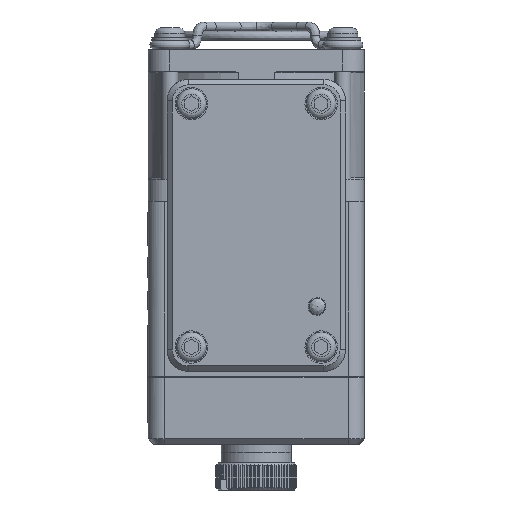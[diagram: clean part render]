
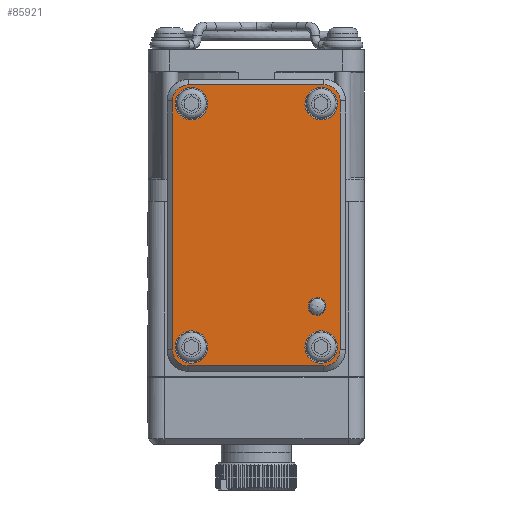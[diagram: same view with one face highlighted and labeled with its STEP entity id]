
A CAD part, front view. The second image highlights one B-rep face of the part: STEP entity #85921.
In plain terms, the highlighted free-form (B-spline) face has degree [1, 1] with [2, 2] control points.
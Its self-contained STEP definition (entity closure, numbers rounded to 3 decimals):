
#85633=CARTESIAN_POINT('',(-15.5,23.,4.));
#85634=VERTEX_POINT('',#85633);
#85640=CARTESIAN_POINT('',(-12.5,26.,4.));
#85641=VERTEX_POINT('',#85640);
#85642=CARTESIAN_POINT('',(-15.5,23.,4.));
#85643=CARTESIAN_POINT('',(-15.5,26.,4.));
#85644=CARTESIAN_POINT('',(-12.5,26.,4.));
#85645=(BOUNDED_CURVE()B_SPLINE_CURVE(2,(#85642,#85643,#85644),.CIRCULAR_ARC.,.F.,.U.)B_SPLINE_CURVE_WITH_KNOTS((3,3),(0.,1.),.UNSPECIFIED.)CURVE()GEOMETRIC_REPRESENTATION_ITEM()RATIONAL_B_SPLINE_CURVE((1.,0.707,1.))REPRESENTATION_ITEM(''));
#85646=EDGE_CURVE('',#85634,#85641,#85645,.T.);
#85664=CARTESIAN_POINT('',(-15.5,-23.,4.));
#85665=VERTEX_POINT('',#85664);
#85671=CARTESIAN_POINT('',(-15.5,-23.,4.));
#85672=CARTESIAN_POINT('',(-15.5,23.,4.));
#85673=B_SPLINE_CURVE_WITH_KNOTS('',1,(#85671,#85672),.POLYLINE_FORM.,.F.,.U.,(2,2),(0.,1.),.UNSPECIFIED.);
#85674=EDGE_CURVE('',#85665,#85634,#85673,.T.);
#85692=CARTESIAN_POINT('',(-12.5,-26.,4.));
#85693=VERTEX_POINT('',#85692);
#85699=CARTESIAN_POINT('',(-12.5,-26.,4.));
#85700=CARTESIAN_POINT('',(-13.743,-26.,4.));
#85701=CARTESIAN_POINT('',(-14.621,-25.121,4.));
#85702=CARTESIAN_POINT('',(-15.5,-24.243,4.));
#85703=CARTESIAN_POINT('',(-15.5,-23.,4.));
#85704=(BOUNDED_CURVE()B_SPLINE_CURVE(2,(#85699,#85700,#85701,#85702,#85703),.CIRCULAR_ARC.,.F.,.U.)B_SPLINE_CURVE_WITH_KNOTS((3,2,3),(0.,0.5,1.),.UNSPECIFIED.)CURVE()GEOMETRIC_REPRESENTATION_ITEM()RATIONAL_B_SPLINE_CURVE((1.,0.924,1.,0.924,1.))REPRESENTATION_ITEM(''));
#85705=EDGE_CURVE('',#85693,#85665,#85704,.T.);
#85717=CARTESIAN_POINT('',(12.5,-26.,4.));
#85718=VERTEX_POINT('',#85717);
#85724=CARTESIAN_POINT('',(12.5,-26.,4.));
#85725=CARTESIAN_POINT('',(-12.5,-26.,4.));
#85726=B_SPLINE_CURVE_WITH_KNOTS('',1,(#85724,#85725),.POLYLINE_FORM.,.F.,.U.,(2,2),(0.,1.),.UNSPECIFIED.);
#85727=EDGE_CURVE('',#85718,#85693,#85726,.T.);
#85745=CARTESIAN_POINT('',(15.5,-23.,4.));
#85746=VERTEX_POINT('',#85745);
#85752=CARTESIAN_POINT('',(15.5,-23.,4.));
#85753=CARTESIAN_POINT('',(15.5,-24.243,4.));
#85754=CARTESIAN_POINT('',(14.621,-25.121,4.));
#85755=CARTESIAN_POINT('',(13.743,-26.,4.));
#85756=CARTESIAN_POINT('',(12.5,-26.,4.));
#85757=(BOUNDED_CURVE()B_SPLINE_CURVE(2,(#85752,#85753,#85754,#85755,#85756),.CIRCULAR_ARC.,.F.,.U.)B_SPLINE_CURVE_WITH_KNOTS((3,2,3),(0.,0.5,1.),.UNSPECIFIED.)CURVE()GEOMETRIC_REPRESENTATION_ITEM()RATIONAL_B_SPLINE_CURVE((1.,0.924,1.,0.924,1.))REPRESENTATION_ITEM(''));
#85758=EDGE_CURVE('',#85746,#85718,#85757,.T.);
#85770=CARTESIAN_POINT('',(15.5,23.,4.));
#85771=VERTEX_POINT('',#85770);
#85777=CARTESIAN_POINT('',(15.5,23.,4.));
#85778=CARTESIAN_POINT('',(15.5,-23.,4.));
#85779=B_SPLINE_CURVE_WITH_KNOTS('',1,(#85777,#85778),.POLYLINE_FORM.,.F.,.U.,(2,2),(0.,1.),.UNSPECIFIED.);
#85780=EDGE_CURVE('',#85771,#85746,#85779,.T.);
#85798=CARTESIAN_POINT('',(12.5,26.,4.));
#85799=VERTEX_POINT('',#85798);
#85805=CARTESIAN_POINT('',(12.5,26.,4.));
#85806=CARTESIAN_POINT('',(13.743,26.,4.));
#85807=CARTESIAN_POINT('',(14.621,25.121,4.));
#85808=CARTESIAN_POINT('',(15.5,24.243,4.));
#85809=CARTESIAN_POINT('',(15.5,23.,4.));
#85810=(BOUNDED_CURVE()B_SPLINE_CURVE(2,(#85805,#85806,#85807,#85808,#85809),.CIRCULAR_ARC.,.F.,.U.)B_SPLINE_CURVE_WITH_KNOTS((3,2,3),(0.,0.5,1.),.UNSPECIFIED.)CURVE()GEOMETRIC_REPRESENTATION_ITEM()RATIONAL_B_SPLINE_CURVE((1.,0.924,1.,0.924,1.))REPRESENTATION_ITEM(''));
#85811=EDGE_CURVE('',#85799,#85771,#85810,.T.);
#85828=CARTESIAN_POINT('',(-12.5,26.,4.));
#85829=CARTESIAN_POINT('',(12.5,26.,4.));
#85830=B_SPLINE_CURVE_WITH_KNOTS('',1,(#85828,#85829),.POLYLINE_FORM.,.F.,.U.,(2,2),(0.,1.),.UNSPECIFIED.);
#85831=EDGE_CURVE('',#85641,#85799,#85830,.T.);
#85836=CARTESIAN_POINT('',(-19.2,-29.7,4.));
#85837=CARTESIAN_POINT('',(-19.2,29.7,4.));
#85838=CARTESIAN_POINT('',(40.2,-29.7,4.));
#85839=CARTESIAN_POINT('',(40.2,29.7,4.));
#85840=B_SPLINE_SURFACE_WITH_KNOTS('',1,1,((#85836,#85837),(#85838,#85839)),.PLANE_SURF.,.F.,.F.,.U.,(2,2),(2,2),(0.,1.),(0.,1.),.UNSPECIFIED.);
#85841=ORIENTED_EDGE('',*,*,#85646,.F.);
#85842=ORIENTED_EDGE('',*,*,#85674,.F.);
#85843=ORIENTED_EDGE('',*,*,#85705,.F.);
#85844=ORIENTED_EDGE('',*,*,#85727,.F.);
#85845=ORIENTED_EDGE('',*,*,#85758,.F.);
#85846=ORIENTED_EDGE('',*,*,#85780,.F.);
#85847=ORIENTED_EDGE('',*,*,#85811,.F.);
#85848=ORIENTED_EDGE('',*,*,#85831,.F.);
#85849=EDGE_LOOP('',(#85841,#85842,#85843,#85844,#85845,#85846,#85847,#85848));
#85850=FACE_OUTER_BOUND('',#85849,.T.);
#85851=CARTESIAN_POINT('',(15.,-22.5,4.));
#85852=VERTEX_POINT('',#85851);
#85853=CARTESIAN_POINT('',(15.,-22.5,4.));
#85854=CARTESIAN_POINT('',(15.,-27.696,4.));
#85855=CARTESIAN_POINT('',(10.5,-25.098,4.));
#85856=CARTESIAN_POINT('',(6.,-22.5,4.));
#85857=CARTESIAN_POINT('',(10.5,-19.902,4.));
#85858=CARTESIAN_POINT('',(15.,-17.304,4.));
#85859=CARTESIAN_POINT('',(15.,-22.5,4.));
#85860=(BOUNDED_CURVE()B_SPLINE_CURVE(2,(#85853,#85854,#85855,#85856,#85857,#85858,#85859),.CIRCULAR_ARC.,.T.,.U.)B_SPLINE_CURVE_WITH_KNOTS((3,2,2,3),(0.,0.333,0.667,1.),.UNSPECIFIED.)CURVE()GEOMETRIC_REPRESENTATION_ITEM()RATIONAL_B_SPLINE_CURVE((1.,0.5,1.,0.5,1.,0.5,1.))REPRESENTATION_ITEM(''));
#85861=EDGE_CURVE('',#85852,#85852,#85860,.T.);
#85862=ORIENTED_EDGE('',*,*,#85861,.T.);
#85863=EDGE_LOOP('',(#85862));
#85864=FACE_BOUND('',#85863,.T.);
#85865=CARTESIAN_POINT('',(-9.,22.5,4.));
#85866=VERTEX_POINT('',#85865);
#85867=CARTESIAN_POINT('',(-9.,22.5,4.));
#85868=CARTESIAN_POINT('',(-9.,17.304,4.));
#85869=CARTESIAN_POINT('',(-13.5,19.902,4.));
#85870=CARTESIAN_POINT('',(-18.,22.5,4.));
#85871=CARTESIAN_POINT('',(-13.5,25.098,4.));
#85872=CARTESIAN_POINT('',(-9.,27.696,4.));
#85873=CARTESIAN_POINT('',(-9.,22.5,4.));
#85874=(BOUNDED_CURVE()B_SPLINE_CURVE(2,(#85867,#85868,#85869,#85870,#85871,#85872,#85873),.CIRCULAR_ARC.,.T.,.U.)B_SPLINE_CURVE_WITH_KNOTS((3,2,2,3),(0.,0.333,0.667,1.),.UNSPECIFIED.)CURVE()GEOMETRIC_REPRESENTATION_ITEM()RATIONAL_B_SPLINE_CURVE((1.,0.5,1.,0.5,1.,0.5,1.))REPRESENTATION_ITEM(''));
#85875=EDGE_CURVE('',#85866,#85866,#85874,.T.);
#85876=ORIENTED_EDGE('',*,*,#85875,.T.);
#85877=EDGE_LOOP('',(#85876));
#85878=FACE_BOUND('',#85877,.T.);
#85879=CARTESIAN_POINT('',(15.,22.5,4.));
#85880=VERTEX_POINT('',#85879);
#85881=CARTESIAN_POINT('',(15.,22.5,4.));
#85882=CARTESIAN_POINT('',(15.,17.304,4.));
#85883=CARTESIAN_POINT('',(10.5,19.902,4.));
#85884=CARTESIAN_POINT('',(6.,22.5,4.));
#85885=CARTESIAN_POINT('',(10.5,25.098,4.));
#85886=CARTESIAN_POINT('',(15.,27.696,4.));
#85887=CARTESIAN_POINT('',(15.,22.5,4.));
#85888=(BOUNDED_CURVE()B_SPLINE_CURVE(2,(#85881,#85882,#85883,#85884,#85885,#85886,#85887),.CIRCULAR_ARC.,.T.,.U.)B_SPLINE_CURVE_WITH_KNOTS((3,2,2,3),(0.,0.333,0.667,1.),.UNSPECIFIED.)CURVE()GEOMETRIC_REPRESENTATION_ITEM()RATIONAL_B_SPLINE_CURVE((1.,0.5,1.,0.5,1.,0.5,1.))REPRESENTATION_ITEM(''));
#85889=EDGE_CURVE('',#85880,#85880,#85888,.T.);
#85890=ORIENTED_EDGE('',*,*,#85889,.T.);
#85891=EDGE_LOOP('',(#85890));
#85892=FACE_BOUND('',#85891,.T.);
#85893=CARTESIAN_POINT('',(-9.,-22.5,4.));
#85894=VERTEX_POINT('',#85893);
#85895=CARTESIAN_POINT('',(-9.,-22.5,4.));
#85896=CARTESIAN_POINT('',(-9.,-27.696,4.));
#85897=CARTESIAN_POINT('',(-13.5,-25.098,4.));
#85898=CARTESIAN_POINT('',(-18.,-22.5,4.));
#85899=CARTESIAN_POINT('',(-13.5,-19.902,4.));
#85900=CARTESIAN_POINT('',(-9.,-17.304,4.));
#85901=CARTESIAN_POINT('',(-9.,-22.5,4.));
#85902=(BOUNDED_CURVE()B_SPLINE_CURVE(2,(#85895,#85896,#85897,#85898,#85899,#85900,#85901),.CIRCULAR_ARC.,.T.,.U.)B_SPLINE_CURVE_WITH_KNOTS((3,2,2,3),(0.,0.333,0.667,1.),.UNSPECIFIED.)CURVE()GEOMETRIC_REPRESENTATION_ITEM()RATIONAL_B_SPLINE_CURVE((1.,0.5,1.,0.5,1.,0.5,1.))REPRESENTATION_ITEM(''));
#85903=EDGE_CURVE('',#85894,#85894,#85902,.T.);
#85904=ORIENTED_EDGE('',*,*,#85903,.T.);
#85905=EDGE_LOOP('',(#85904));
#85906=FACE_BOUND('',#85905,.T.);
#85907=CARTESIAN_POINT('',(12.75,-15.,4.));
#85908=VERTEX_POINT('',#85907);
#85909=CARTESIAN_POINT('',(12.75,-15.,4.));
#85910=CARTESIAN_POINT('',(12.75,-17.598,4.));
#85911=CARTESIAN_POINT('',(10.5,-16.299,4.));
#85912=CARTESIAN_POINT('',(8.25,-15.,4.));
#85913=CARTESIAN_POINT('',(10.5,-13.701,4.));
#85914=CARTESIAN_POINT('',(12.75,-12.402,4.));
#85915=CARTESIAN_POINT('',(12.75,-15.,4.));
#85916=(BOUNDED_CURVE()B_SPLINE_CURVE(2,(#85909,#85910,#85911,#85912,#85913,#85914,#85915),.CIRCULAR_ARC.,.T.,.U.)B_SPLINE_CURVE_WITH_KNOTS((3,2,2,3),(0.,0.333,0.667,1.),.UNSPECIFIED.)CURVE()GEOMETRIC_REPRESENTATION_ITEM()RATIONAL_B_SPLINE_CURVE((1.,0.5,1.,0.5,1.,0.5,1.))REPRESENTATION_ITEM(''));
#85917=EDGE_CURVE('',#85908,#85908,#85916,.T.);
#85918=ORIENTED_EDGE('',*,*,#85917,.T.);
#85919=EDGE_LOOP('',(#85918));
#85920=FACE_BOUND('',#85919,.T.);
#85921=ADVANCED_FACE('',(#85850,#85864,#85878,#85892,#85906,#85920),#85840,.T.);
